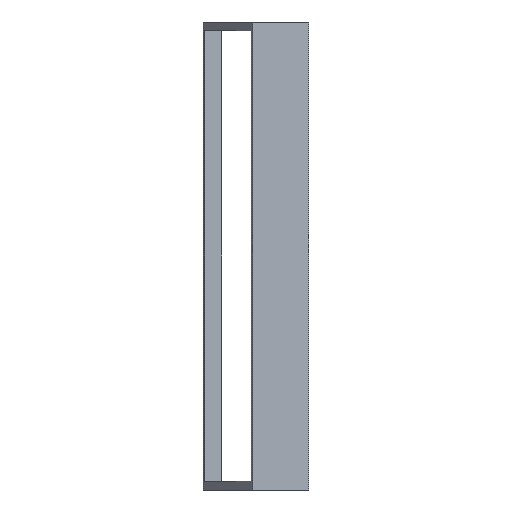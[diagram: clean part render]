
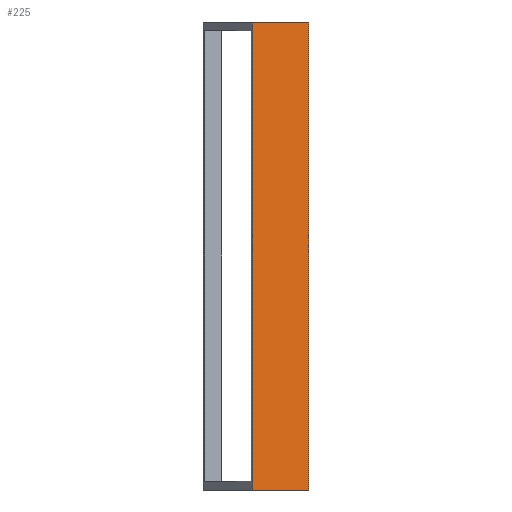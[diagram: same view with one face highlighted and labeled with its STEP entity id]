
A CAD part, left-side view. The second image highlights one B-rep face of the part: STEP entity #225.
In plain terms, the highlighted planar face has unit normal (-0.985, -0.175, 0).
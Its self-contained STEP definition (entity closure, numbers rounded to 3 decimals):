
#61 = EDGE_CURVE('',#62,#64,#66,.T.);
#62 = VERTEX_POINT('',#63);
#63 = CARTESIAN_POINT('',(-4.488,8.373,-2.75));
#64 = VERTEX_POINT('',#65);
#65 = CARTESIAN_POINT('',(-4.605,9.032,-2.75));
#66 = LINE('',#67,#68);
#67 = CARTESIAN_POINT('',(-4.465,8.245,-2.75));
#68 = VECTOR('',#69,1.);
#69 = DIRECTION('',(-0.175,0.985,0.));
#95 = EDGE_CURVE('',#64,#96,#98,.T.);
#96 = VERTEX_POINT('',#97);
#97 = CARTESIAN_POINT('',(-4.605,9.032,2.75));
#98 = LINE('',#99,#100);
#99 = CARTESIAN_POINT('',(-4.605,9.032,-2.75));
#100 = VECTOR('',#101,1.);
#101 = DIRECTION('',(0.,0.,1.));
#151 = EDGE_CURVE('',#152,#96,#154,.T.);
#152 = VERTEX_POINT('',#153);
#153 = CARTESIAN_POINT('',(-4.488,8.373,2.75));
#154 = LINE('',#155,#156);
#155 = CARTESIAN_POINT('',(-4.465,8.245,2.75));
#156 = VECTOR('',#157,1.);
#157 = DIRECTION('',(-0.175,0.985,0.));
#178 = EDGE_CURVE('',#62,#152,#179,.T.);
#179 = LINE('',#180,#181);
#180 = CARTESIAN_POINT('',(-4.488,8.373,-10.));
#181 = VECTOR('',#182,1.);
#182 = DIRECTION('',(0.,0.,1.));
#225 = ADVANCED_FACE('',(#226),#232,.T.);
#226 = FACE_BOUND('',#227,.T.);
#227 = EDGE_LOOP('',(#228,#229,#230,#231));
#228 = ORIENTED_EDGE('',*,*,#61,.F.);
#229 = ORIENTED_EDGE('',*,*,#178,.T.);
#230 = ORIENTED_EDGE('',*,*,#151,.T.);
#231 = ORIENTED_EDGE('',*,*,#95,.F.);
#232 = PLANE('',#233);
#233 = AXIS2_PLACEMENT_3D('',#234,#235,#236);
#234 = CARTESIAN_POINT('',(-4.465,8.245,-2.75));
#235 = DIRECTION('',(-0.985,-0.175,0.));
#236 = DIRECTION('',(0.,0.,1.));
